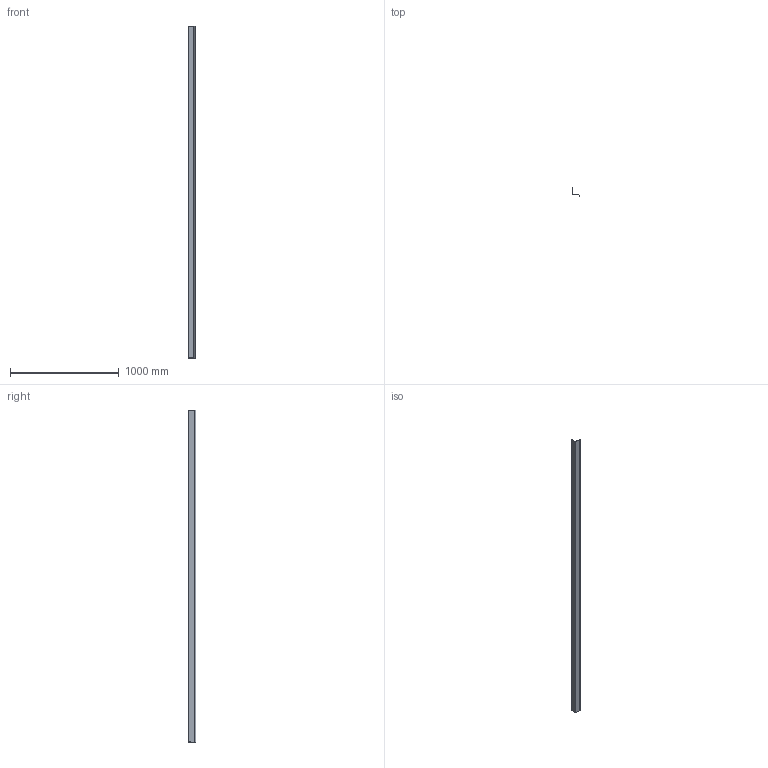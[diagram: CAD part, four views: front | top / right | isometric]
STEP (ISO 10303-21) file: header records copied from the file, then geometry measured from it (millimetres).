
FILE_DESCRIPTION (( 'STEP AP203' ), '1' );
FILE_NAME ('M53A.STEP', '2018-06-16T01:05:55', ( 'Michael Moliner' ), ( '' ), 'SwSTEP 2.0', 'SolidWorks 2018', '' );
FILE_SCHEMA (( 'CONFIG_CONTROL_DESIGN' ));
Length unit declared in the file: inch
Products named in the file (2): M53A
Bounding box: 59.48 x 69.27 x 3048 mm (x, y, z)
Volume: 285070.7 mm3; surface area: 1125609.6 mm2
Topology: 1 solids, 1 shells, 21 faces, 57 edges, 38 vertices
Faces by surface type: plane 14, cylinder 7
Entity records: 822 total; most frequent: CARTESIAN_POINT 118, DIRECTION 117, ORIENTED_EDGE 114, EDGE_CURVE 57, LINE 43, VECTOR 43, VERTEX_POINT 38, AXIS2_PLACEMENT_3D 37
